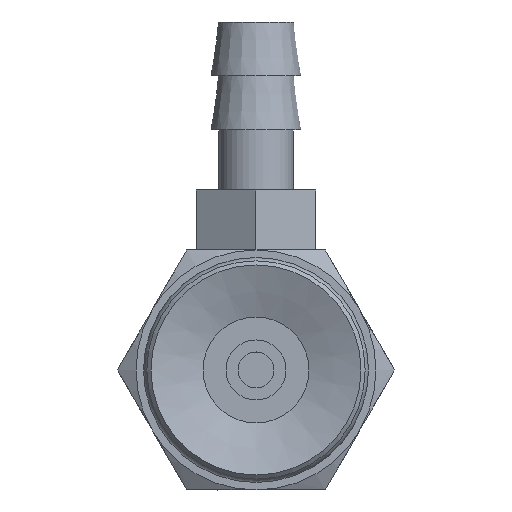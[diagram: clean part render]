
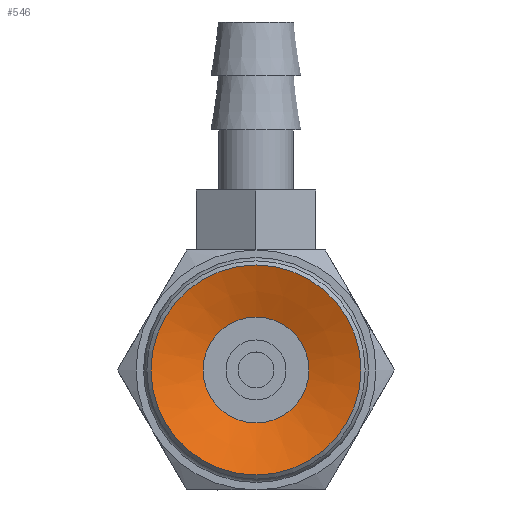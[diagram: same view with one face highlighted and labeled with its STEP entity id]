
A CAD part, front view. The second image highlights one B-rep face of the part: STEP entity #546.
In plain terms, the highlighted conical face has half-angle 70 degrees and reference radius 3.5 mm.
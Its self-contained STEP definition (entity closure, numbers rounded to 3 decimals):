
#546=ADVANCED_FACE('',(#806,#807),#808,.F.);
#806=FACE_BOUND('',#1145,.T.);
#807=FACE_OUTER_BOUND('',#1146,.T.);
#808=CONICAL_SURFACE('',#1147,3.5,1.222);
#1145=EDGE_LOOP('',(#1885));
#1146=EDGE_LOOP('',(#1886));
#1147=AXIS2_PLACEMENT_3D('',#1887,#1888,#1889);
#1885=ORIENTED_EDGE('',*,*,#2295,.F.);
#1886=ORIENTED_EDGE('',*,*,#2293,.T.);
#1887=CARTESIAN_POINT('',(0.0,0.0,0.0));
#1888=DIRECTION('',(-0.0,-1.0,0.));
#1889=DIRECTION('',(0.0,0.,-1.0));
#2293=EDGE_CURVE('',#2632,#2632,#2633,.T.);
#2295=EDGE_CURVE('',#2636,#2636,#2637,.T.);
#2632=VERTEX_POINT('',#3394);
#2633=CIRCLE('',#3395,3.5);
#2636=VERTEX_POINT('',#3398);
#2637=CIRCLE('',#3399,1.765);
#3394=CARTESIAN_POINT('',(0.0,0.,-3.5));
#3395=AXIS2_PLACEMENT_3D('',#3755,#3756,#3757);
#3398=CARTESIAN_POINT('',(0.0,0.632,-1.765));
#3399=AXIS2_PLACEMENT_3D('',#3761,#3762,#3763);
#3755=CARTESIAN_POINT('',(0.0,0.0,0.0));
#3756=DIRECTION('',(0.0,-1.0,0.));
#3757=DIRECTION('',(0.0,0.,-1.0));
#3761=CARTESIAN_POINT('',(0.0,0.632,0.0));
#3762=DIRECTION('',(0.0,-1.0,0.));
#3763=DIRECTION('',(0.0,0.,-1.0));
